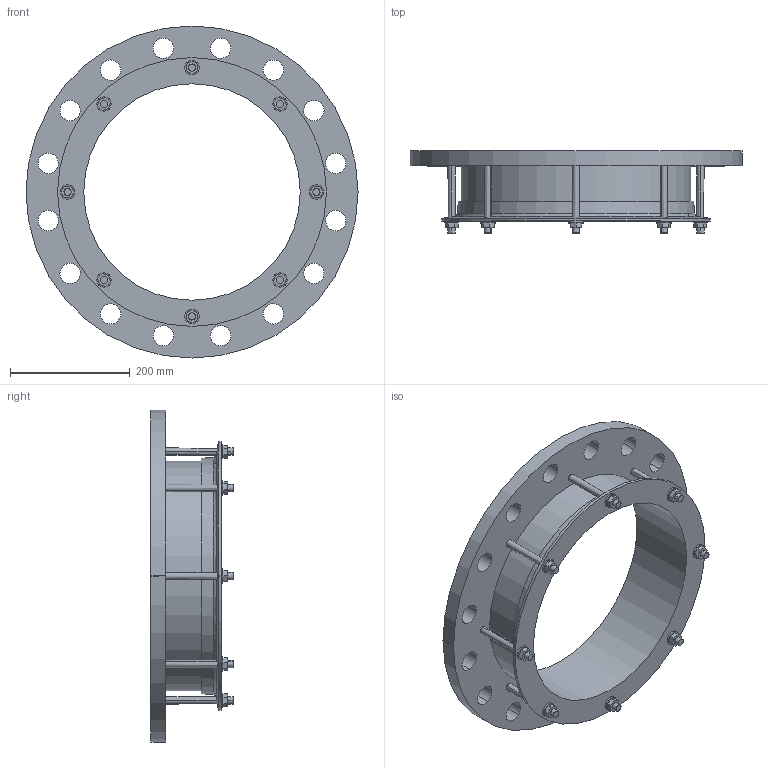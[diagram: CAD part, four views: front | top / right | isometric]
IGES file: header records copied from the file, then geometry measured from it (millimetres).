
Start section:  PTC IGES file: 359x350pn25.igs
Global section: file name: 359x350pn25.igs; native system: Creo Parametric by PTC Inc.; preprocessor: 2016130; author: mfairey; organization: Unknown; date: 20190404.092430; units: millimetre
Bounding box: 555 x 137.45 x 555 mm (x, y, z)
Surface area: 692470.5 mm2 (no closed solid volume)
Topology: 0 solids, 0 shells, 170 faces, 892 edges, 892 vertices
Faces by surface type: revolution 94, bspline 76
